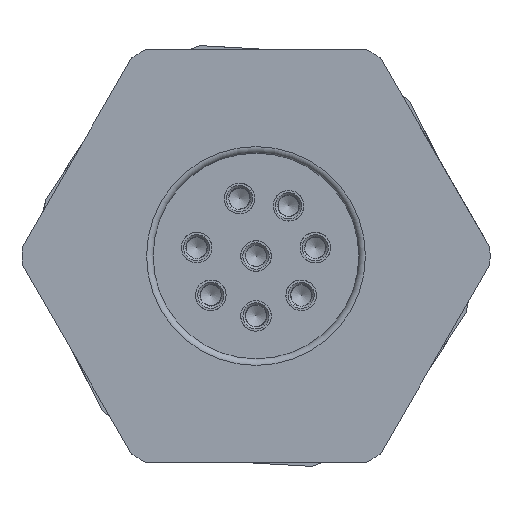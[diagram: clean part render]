
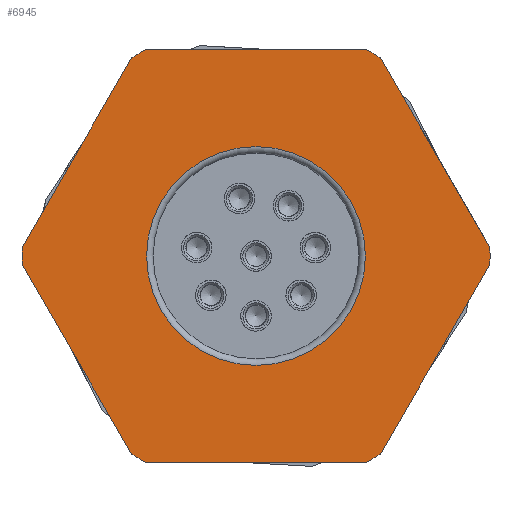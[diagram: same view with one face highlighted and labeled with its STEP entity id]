
A CAD part, front view. The second image highlights one B-rep face of the part: STEP entity #6945.
In plain terms, the highlighted planar face has unit normal (0, -1, 0).
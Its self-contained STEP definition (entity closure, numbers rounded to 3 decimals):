
#6798=CARTESIAN_POINT('',(5.025,0.,0.));
#6799=VERTEX_POINT('',#6798);
#6800=CARTESIAN_POINT('',(0.0,0.,0.));
#6801=DIRECTION('',(0.0,-1.0,0.0));
#6802=DIRECTION('',(-1.0,0.0,0.0));
#6803=AXIS2_PLACEMENT_3D('',#6800,#6801,#6802);
#6804=CIRCLE('',#6803,5.025);
#6805=EDGE_CURVE('',#6799,#6799,#6804,.T.);
#6833=CARTESIAN_POINT('',(7.737,0.,0.));
#6834=DIRECTION('',(0.0,-1.0,0.0));
#6835=DIRECTION('',(0.0,0.0,-1.0));
#6836=AXIS2_PLACEMENT_3D('',#6833,#6834,#6835);
#6837=PLANE('',#6836);
#6838=CARTESIAN_POINT('',(10.743,0.,-0.393));
#6839=VERTEX_POINT('',#6838);
#6840=CARTESIAN_POINT('',(5.712,0.,-9.107));
#6841=VERTEX_POINT('',#6840);
#6842=CARTESIAN_POINT('',(10.743,0.,-0.393));
#6843=DIRECTION('',(-0.5,0.0,-0.866));
#6844=VECTOR('',#6843,10.062);
#6845=LINE('',#6842,#6844);
#6846=EDGE_CURVE('',#6839,#6841,#6845,.T.);
#6847=ORIENTED_EDGE('',*,*,#6846,.F.);
#6848=CARTESIAN_POINT('',(10.743,0.,0.393));
#6849=VERTEX_POINT('',#6848);
#6850=CARTESIAN_POINT('',(0.0,0.,0.));
#6851=DIRECTION('',(0.0,-1.0,0.0));
#6852=DIRECTION('',(1.0,0.0,0.0));
#6853=AXIS2_PLACEMENT_3D('',#6850,#6851,#6852);
#6854=CIRCLE('',#6853,10.75);
#6855=EDGE_CURVE('',#6839,#6849,#6854,.T.);
#6856=ORIENTED_EDGE('',*,*,#6855,.T.);
#6857=CARTESIAN_POINT('',(5.712,0.,9.107));
#6858=VERTEX_POINT('',#6857);
#6859=CARTESIAN_POINT('',(5.712,0.,9.107));
#6860=DIRECTION('',(0.5,0.0,-0.866));
#6861=VECTOR('',#6860,10.062);
#6862=LINE('',#6859,#6861);
#6863=EDGE_CURVE('',#6858,#6849,#6862,.T.);
#6864=ORIENTED_EDGE('',*,*,#6863,.F.);
#6865=CARTESIAN_POINT('',(5.031,0.,9.5));
#6866=VERTEX_POINT('',#6865);
#6867=CARTESIAN_POINT('',(0.0,0.,0.));
#6868=DIRECTION('',(0.0,-1.0,0.0));
#6869=DIRECTION('',(1.0,0.0,0.0));
#6870=AXIS2_PLACEMENT_3D('',#6867,#6868,#6869);
#6871=CIRCLE('',#6870,10.75);
#6872=EDGE_CURVE('',#6858,#6866,#6871,.T.);
#6873=ORIENTED_EDGE('',*,*,#6872,.T.);
#6874=CARTESIAN_POINT('',(-5.031,0.,9.5));
#6875=VERTEX_POINT('',#6874);
#6876=CARTESIAN_POINT('',(-5.031,0.,9.5));
#6877=DIRECTION('',(1.0,0.0,0.0));
#6878=VECTOR('',#6877,10.062);
#6879=LINE('',#6876,#6878);
#6880=EDGE_CURVE('',#6875,#6866,#6879,.T.);
#6881=ORIENTED_EDGE('',*,*,#6880,.F.);
#6882=CARTESIAN_POINT('',(-5.712,0.,9.107));
#6883=VERTEX_POINT('',#6882);
#6884=CARTESIAN_POINT('',(0.0,0.,0.));
#6885=DIRECTION('',(0.0,-1.0,0.0));
#6886=DIRECTION('',(1.0,0.0,0.0));
#6887=AXIS2_PLACEMENT_3D('',#6884,#6885,#6886);
#6888=CIRCLE('',#6887,10.75);
#6889=EDGE_CURVE('',#6875,#6883,#6888,.T.);
#6890=ORIENTED_EDGE('',*,*,#6889,.T.);
#6891=CARTESIAN_POINT('',(-10.743,0.,0.393));
#6892=VERTEX_POINT('',#6891);
#6893=CARTESIAN_POINT('',(-10.743,0.,0.393));
#6894=DIRECTION('',(0.5,0.0,0.866));
#6895=VECTOR('',#6894,10.062);
#6896=LINE('',#6893,#6895);
#6897=EDGE_CURVE('',#6892,#6883,#6896,.T.);
#6898=ORIENTED_EDGE('',*,*,#6897,.F.);
#6899=CARTESIAN_POINT('',(-10.743,0.,-0.393));
#6900=VERTEX_POINT('',#6899);
#6901=CARTESIAN_POINT('',(0.0,0.,0.));
#6902=DIRECTION('',(0.0,-1.0,0.0));
#6903=DIRECTION('',(1.0,0.0,0.0));
#6904=AXIS2_PLACEMENT_3D('',#6901,#6902,#6903);
#6905=CIRCLE('',#6904,10.75);
#6906=EDGE_CURVE('',#6892,#6900,#6905,.T.);
#6907=ORIENTED_EDGE('',*,*,#6906,.T.);
#6908=CARTESIAN_POINT('',(-5.712,0.,-9.107));
#6909=VERTEX_POINT('',#6908);
#6910=CARTESIAN_POINT('',(-5.712,0.,-9.107));
#6911=DIRECTION('',(-0.5,0.0,0.866));
#6912=VECTOR('',#6911,10.062);
#6913=LINE('',#6910,#6912);
#6914=EDGE_CURVE('',#6909,#6900,#6913,.T.);
#6915=ORIENTED_EDGE('',*,*,#6914,.F.);
#6916=CARTESIAN_POINT('',(-5.031,0.,-9.5));
#6917=VERTEX_POINT('',#6916);
#6918=CARTESIAN_POINT('',(0.0,0.,0.));
#6919=DIRECTION('',(0.0,-1.0,0.0));
#6920=DIRECTION('',(1.0,0.0,0.0));
#6921=AXIS2_PLACEMENT_3D('',#6918,#6919,#6920);
#6922=CIRCLE('',#6921,10.75);
#6923=EDGE_CURVE('',#6909,#6917,#6922,.T.);
#6924=ORIENTED_EDGE('',*,*,#6923,.T.);
#6925=CARTESIAN_POINT('',(5.031,0.,-9.5));
#6926=VERTEX_POINT('',#6925);
#6927=CARTESIAN_POINT('',(5.031,0.,-9.5));
#6928=DIRECTION('',(-1.0,0.0,0.0));
#6929=VECTOR('',#6928,10.062);
#6930=LINE('',#6927,#6929);
#6931=EDGE_CURVE('',#6926,#6917,#6930,.T.);
#6932=ORIENTED_EDGE('',*,*,#6931,.F.);
#6933=CARTESIAN_POINT('',(0.0,0.,0.));
#6934=DIRECTION('',(0.0,-1.0,0.0));
#6935=DIRECTION('',(1.0,0.0,0.0));
#6936=AXIS2_PLACEMENT_3D('',#6933,#6934,#6935);
#6937=CIRCLE('',#6936,10.75);
#6938=EDGE_CURVE('',#6926,#6841,#6937,.T.);
#6939=ORIENTED_EDGE('',*,*,#6938,.T.);
#6940=EDGE_LOOP('',(#6847,#6856,#6864,#6873,#6881,#6890,#6898,#6907,#6915,#6924,#6932,#6939));
#6941=FACE_OUTER_BOUND('',#6940,.T.);
#6942=ORIENTED_EDGE('',*,*,#6805,.F.);
#6943=EDGE_LOOP('',(#6942));
#6944=FACE_BOUND('',#6943,.T.);
#6945=ADVANCED_FACE('',(#6941,#6944),#6837,.T.);
